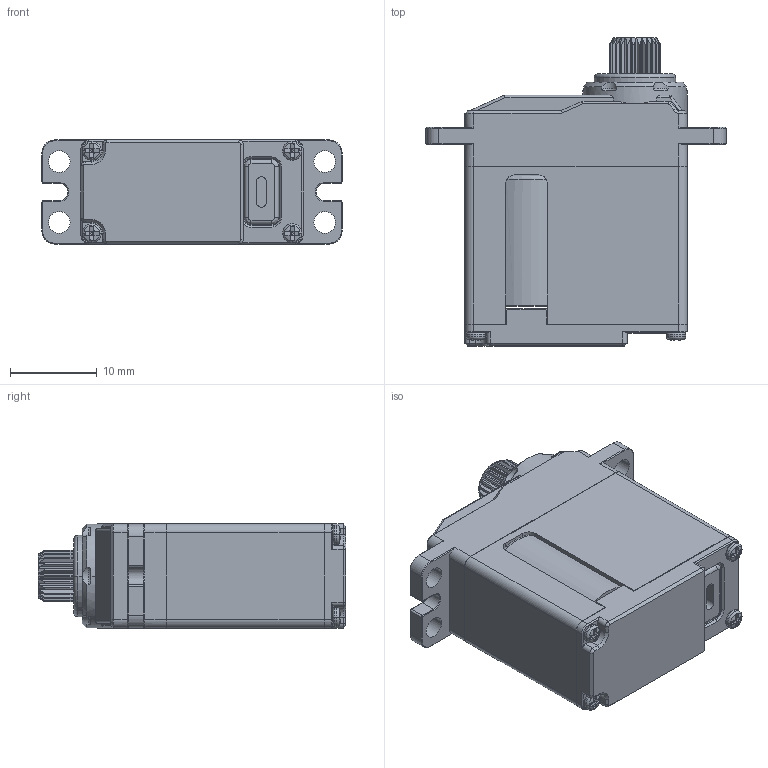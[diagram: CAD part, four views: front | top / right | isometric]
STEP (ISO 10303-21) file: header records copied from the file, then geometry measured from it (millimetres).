
FILE_DESCRIPTION((''),'2;1');
FILE_NAME('DDJ-A28-2','2025-09-12T',('扂'),(''),'PRO/ENGINEER BY PARAMETRIC TECHNOLOGY CORPORATION, 2010280','PRO/ENGINEER BY PARAMETRIC TECHNOLOGY CORPORATION, 2010280','');
FILE_SCHEMA(('CONFIG_CONTROL_DESIGN'));
Length unit declared in the file: millimetre
Products named in the file (1): DDJ-A28-2
Bounding box: 34.6 x 35.5 x 12 mm (x, y, z)
Volume: 8982.7 mm3; surface area: 3602.7 mm2
Topology: 1 solids, 2 shells, 692 faces, 1859 edges, 1168 vertices
Faces by surface type: plane 329, cylinder 243, cone 64, torus 26, bspline 18, sphere 12
Entity records: 25314 total; most frequent: CARTESIAN_POINT 8393, ORIENTED_EDGE 3690, DIRECTION 3343, EDGE_CURVE 1845, VERTEX_POINT 1168, AXIS2_PLACEMENT_3D 1159, VECTOR 1025, LINE 1025
